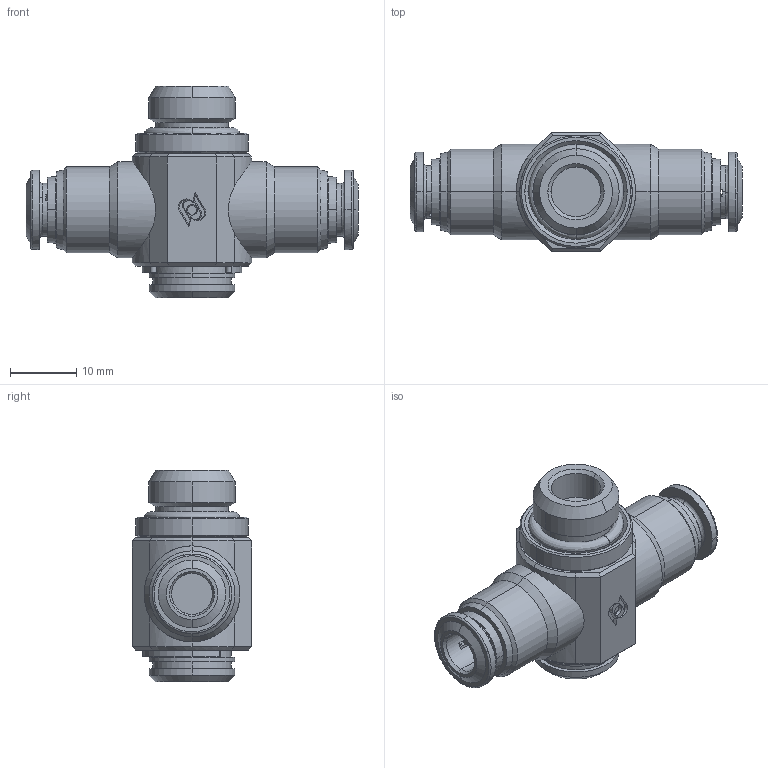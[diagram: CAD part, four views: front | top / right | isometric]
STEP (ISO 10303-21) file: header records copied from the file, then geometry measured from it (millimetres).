
FILE_DESCRIPTION (( 'STEP AP203' ), '1' );
FILE_NAME ('5756000004A.STEP', '2019-05-20T06:46:33', ( '' ), ( '' ), 'SwSTEP 2.0', 'SolidWorks 2016', '' );
FILE_SCHEMA (( 'CONFIG_CONTROL_DESIGN' ));
Length unit declared in the file: millimetre
Products named in the file (1): 5756000004A
Bounding box: 50.2 x 18 x 32 mm (x, y, z)
Volume: 10369.3 mm3; surface area: 5205.9 mm2
Topology: 4 solids, 4 shells, 262 faces, 629 edges, 395 vertices
Faces by surface type: plane 89, cone 76, cylinder 75, bspline 22
Entity records: 9496 total; most frequent: CARTESIAN_POINT 3279, DIRECTION 1344, ORIENTED_EDGE 1258, EDGE_CURVE 629, AXIS2_PLACEMENT_3D 532, VERTEX_POINT 395, EDGE_LOOP 294, CIRCLE 291
